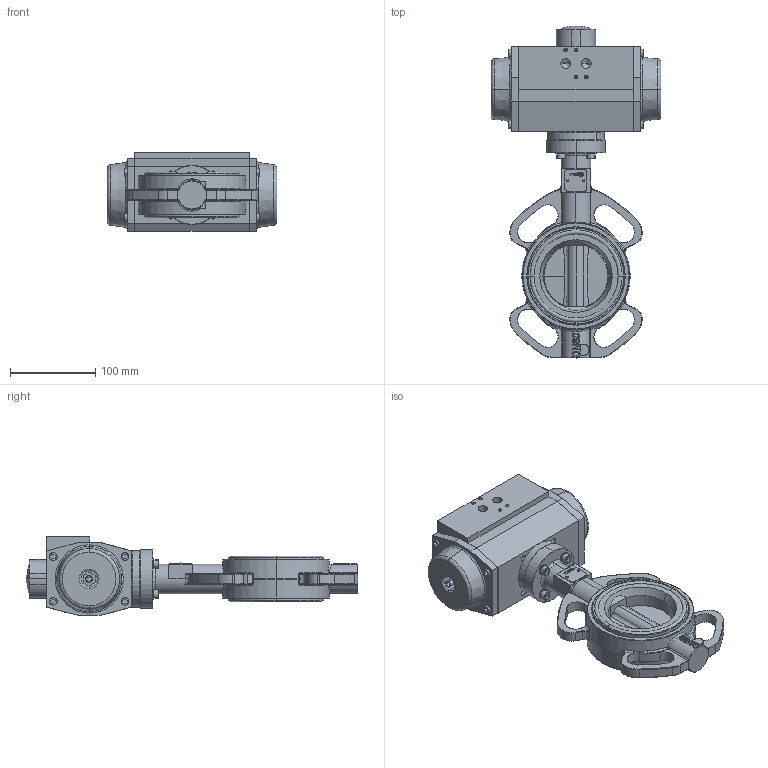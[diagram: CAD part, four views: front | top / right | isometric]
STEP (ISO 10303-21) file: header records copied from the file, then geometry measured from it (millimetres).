
FILE_DESCRIPTION (( 'STEP AP214' ), '1' );
FILE_NAME ('VTB200 DN80 + AP3D.STEP', '2015-10-04T19:18:05', ( '' ), ( '' ), 'SwSTEP 2.0', 'SolidWorks 2013', '' );
FILE_SCHEMA (( 'AUTOMOTIVE_DESIGN' ));
Length unit declared in the file: millimetre
Products named in the file (10): curved spring lock washer_din_Spring washer DIN 128 - A6; socket head cap screw_iso_ISO 4762 M6 x 35 --- 24N; YF067F5F5H10D15NYL; Verloopster 17_11; AP3-90_Default<As Machined>; VTB200 Wafer DN80 BS; Typeplaatje xxmm; Huis met zitting DN80 2013; Klep VTB200 DN80 2013; VTB200 DN80 + AP3D
Assembly tree (15 placements, depth 3):
  VTB200 DN80 + AP3D
    VTB200 Wafer DN80 BS
      Klep VTB200 DN80 2013
      Huis met zitting DN80 2013
      Typeplaatje xxmm
    AP3-90_Default<As Machined>
    Verloopster 17_11
    YF067F5F5H10D15NYL
    socket head cap screw_iso_ISO 4762 M6 x 35 --- 24N  x4
    curved spring lock washer_din_Spring washer DIN 128 - A6  x4
Bounding box: 199 x 388.99 x 92 mm (x, y, z)
Volume: 2154717 mm3; surface area: 284159.4 mm2
Topology: 22 solids, 22 shells, 1200 faces, 2886 edges, 1744 vertices
Faces by surface type: plane 390, cylinder 285, torus 200, bspline 195, cone 116, sphere 14
Entity records: 53084 total; most frequent: CARTESIAN_POINT 25669, ORIENTED_EDGE 5196, DIRECTION 4985, EDGE_CURVE 2598, AXIS2_PLACEMENT_3D 1979, VERTEX_POINT 1609, EDGE_LOOP 1215, ADVANCED_FACE 1095
